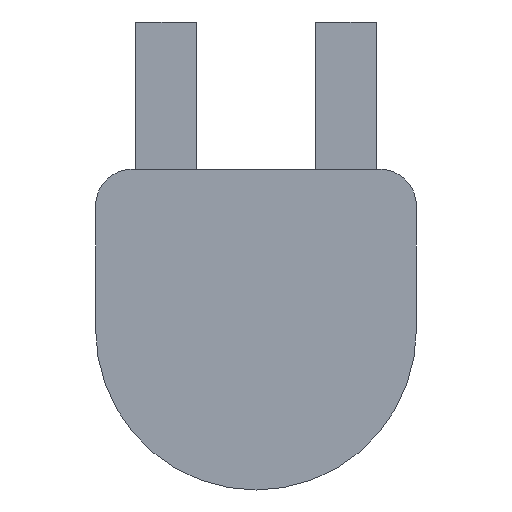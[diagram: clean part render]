
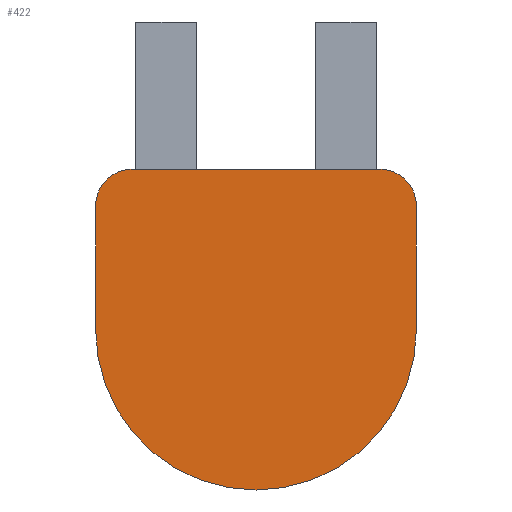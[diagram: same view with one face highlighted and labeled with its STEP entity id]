
A CAD part, front view. The second image highlights one B-rep face of the part: STEP entity #422.
In plain terms, the highlighted planar face has unit normal (0, -1, 0).
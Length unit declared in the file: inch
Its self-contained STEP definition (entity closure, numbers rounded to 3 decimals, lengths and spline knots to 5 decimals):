
#3 = LINE ( 'NONE', #187, #45 ) ;
#33 = AXIS2_PLACEMENT_3D ( 'NONE', #562, #169, #484 ) ;
#45 = VECTOR ( 'NONE', #365, 39.37008 ) ;
#59 = VECTOR ( 'NONE', #179, 39.37008 ) ;
#73 = ORIENTED_EDGE ( 'NONE', *, *, #487, .F. ) ;
#93 = LINE ( 'NONE', #448, #59 ) ;
#96 = CIRCLE ( 'NONE', #470, 0.55 ) ;
#98 = EDGE_LOOP ( 'NONE', ( #415, #143, #73, #223, #191, #496, #259 ) ) ;
#105 = EDGE_CURVE ( 'NONE', #206, #463, #464, .T. ) ;
#122 = FACE_OUTER_BOUND ( 'NONE', #98, .T. ) ;
#133 = VECTOR ( 'NONE', #465, 39.37008 ) ;
#143 = ORIENTED_EDGE ( 'NONE', *, *, #238, .F. ) ;
#165 = AXIS2_PLACEMENT_3D ( 'NONE', #261, #435, #211 ) ;
#169 = DIRECTION ( 'NONE',  ( 0., 1., 0. ) ) ;
#172 = DIRECTION ( 'NONE',  ( 0., 0., 1. ) ) ;
#179 = DIRECTION ( 'NONE',  ( 1., 0., 0. ) ) ;
#187 = CARTESIAN_POINT ( 'NONE',  ( 0.55, 0., 0. ) ) ;
#191 = ORIENTED_EDGE ( 'NONE', *, *, #251, .F. ) ;
#193 = EDGE_CURVE ( 'NONE', #289, #206, #252, .T. ) ;
#206 = VERTEX_POINT ( 'NONE', #421 ) ;
#211 = DIRECTION ( 'NONE',  ( 0., 0., 1. ) ) ;
#214 = CARTESIAN_POINT ( 'NONE',  ( -0.425, 0., 0.55 ) ) ;
#217 = CIRCLE ( 'NONE', #551, 0.55 ) ;
#223 = ORIENTED_EDGE ( 'NONE', *, *, #304, .F. ) ;
#238 = EDGE_CURVE ( 'NONE', #253, #289, #96, .T. ) ;
#246 = CIRCLE ( 'NONE', #33, 0.125 ) ;
#251 = EDGE_CURVE ( 'NONE', #411, #268, #246, .T. ) ;
#252 = LINE ( 'NONE', #513, #133 ) ;
#253 = VERTEX_POINT ( 'NONE', #258 ) ;
#255 = CARTESIAN_POINT ( 'NONE',  ( 0.425, 0., 0.55 ) ) ;
#258 = CARTESIAN_POINT ( 'NONE',  ( 0., 0., -0.55 ) ) ;
#259 = ORIENTED_EDGE ( 'NONE', *, *, #105, .F. ) ;
#261 = CARTESIAN_POINT ( 'NONE',  ( 0., 0., 0. ) ) ;
#263 = DIRECTION ( 'NONE',  ( 0., 0., 1. ) ) ;
#268 = VERTEX_POINT ( 'NONE', #389 ) ;
#278 = DIRECTION ( 'NONE',  ( 0., 1., 0. ) ) ;
#289 = VERTEX_POINT ( 'NONE', #461 ) ;
#296 = PLANE ( 'NONE',  #165 ) ;
#304 = EDGE_CURVE ( 'NONE', #268, #520, #3, .T. ) ;
#365 = DIRECTION ( 'NONE',  ( 0., 0., -1. ) ) ;
#389 = CARTESIAN_POINT ( 'NONE',  ( 0.55, 0., 0.425 ) ) ;
#411 = VERTEX_POINT ( 'NONE', #255 ) ;
#415 = ORIENTED_EDGE ( 'NONE', *, *, #193, .F. ) ;
#421 = CARTESIAN_POINT ( 'NONE',  ( -0.55, 0., 0.425 ) ) ;
#422 = ADVANCED_FACE ( 'NONE', ( #122 ), #296, .F. ) ;
#435 = DIRECTION ( 'NONE',  ( 0., 1., 0. ) ) ;
#448 = CARTESIAN_POINT ( 'NONE',  ( 0., 0., 0.55 ) ) ;
#461 = CARTESIAN_POINT ( 'NONE',  ( -0.55, 0., 0. ) ) ;
#463 = VERTEX_POINT ( 'NONE', #214 ) ;
#464 = CIRCLE ( 'NONE', #541, 0.125 ) ;
#465 = DIRECTION ( 'NONE',  ( 0., 0., 1. ) ) ;
#470 = AXIS2_PLACEMENT_3D ( 'NONE', #566, #480, #523 ) ;
#480 = DIRECTION ( 'NONE',  ( 0., 1., 0. ) ) ;
#484 = DIRECTION ( 'NONE',  ( 0., 0., 1. ) ) ;
#487 = EDGE_CURVE ( 'NONE', #520, #253, #217, .T. ) ;
#496 = ORIENTED_EDGE ( 'NONE', *, *, #554, .F. ) ;
#498 = CARTESIAN_POINT ( 'NONE',  ( -0.425, 0., 0.425 ) ) ;
#513 = CARTESIAN_POINT ( 'NONE',  ( -0.55, 0., 0. ) ) ;
#520 = VERTEX_POINT ( 'NONE', #564 ) ;
#523 = DIRECTION ( 'NONE',  ( 0., 0., 1. ) ) ;
#531 = CARTESIAN_POINT ( 'NONE',  ( 0., 0., 0. ) ) ;
#535 = DIRECTION ( 'NONE',  ( 0., 1., 0. ) ) ;
#541 = AXIS2_PLACEMENT_3D ( 'NONE', #498, #278, #172 ) ;
#551 = AXIS2_PLACEMENT_3D ( 'NONE', #531, #535, #263 ) ;
#554 = EDGE_CURVE ( 'NONE', #463, #411, #93, .T. ) ;
#562 = CARTESIAN_POINT ( 'NONE',  ( 0.425, 0., 0.425 ) ) ;
#564 = CARTESIAN_POINT ( 'NONE',  ( 0.55, 0., 0. ) ) ;
#566 = CARTESIAN_POINT ( 'NONE',  ( 0., 0., 0. ) ) ;
